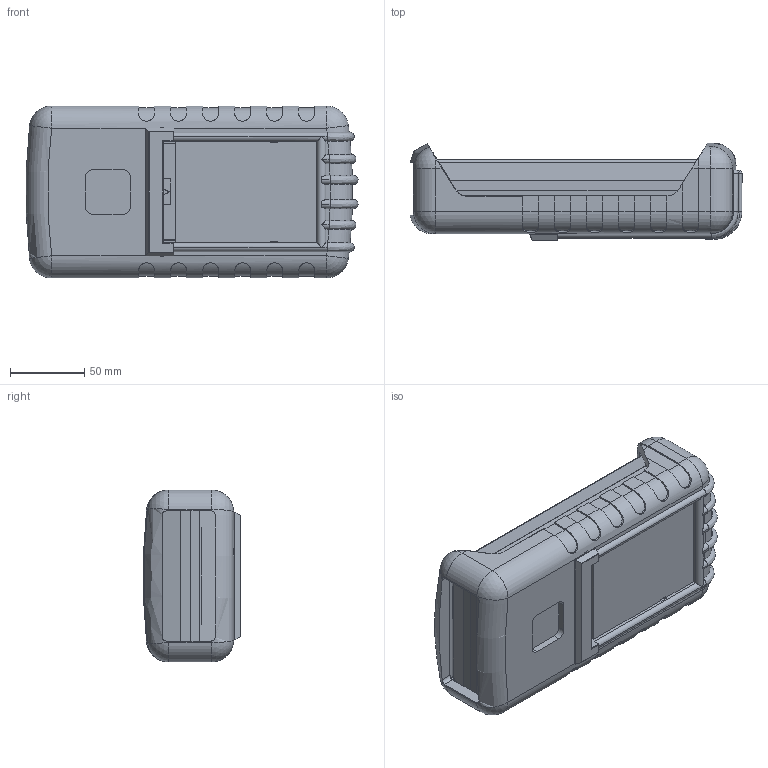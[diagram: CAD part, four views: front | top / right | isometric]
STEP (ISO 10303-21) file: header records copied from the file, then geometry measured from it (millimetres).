
FILE_DESCRIPTION (( 'STEP AP214' ), '1' );
FILE_NAME ('100-42-4C-E-R.STEP', '2020-11-20T02:59:05', ( 'Rudy' ), ( '' ), 'SwSTEP 2.0', 'SolidWorks 2016', '' );
FILE_SCHEMA (( 'AUTOMOTIVE_DESIGN' ));
Length unit declared in the file: inch
Products named in the file (6): 100 RBE; 100-06 EXPANDER; 4C door; 100-04-recessed Top; 100-02 BOT-4C; 100-42-4C-E-R
Assembly tree (5 placements, depth 2):
  100-42-4C-E-R
    100-02 BOT-4C
    100-04-recessed Top
    4C door
    100-06 EXPANDER
    100 RBE
Bounding box: 223.76 x 65.38 x 115.87 mm (x, y, z)
Volume: 395968.5 mm3; surface area: 272880.7 mm2
Topology: 5 solids, 5 shells, 1277 faces, 3435 edges, 2162 vertices
Faces by surface type: plane 692, cylinder 430, bspline 63, cone 42, torus 38, sphere 12
Entity records: 42944 total; most frequent: CARTESIAN_POINT 11860, ORIENTED_EDGE 6790, DIRECTION 6011, EDGE_CURVE 3395, LINE 2217, VECTOR 2217, VERTEX_POINT 2154, AXIS2_PLACEMENT_3D 1897
